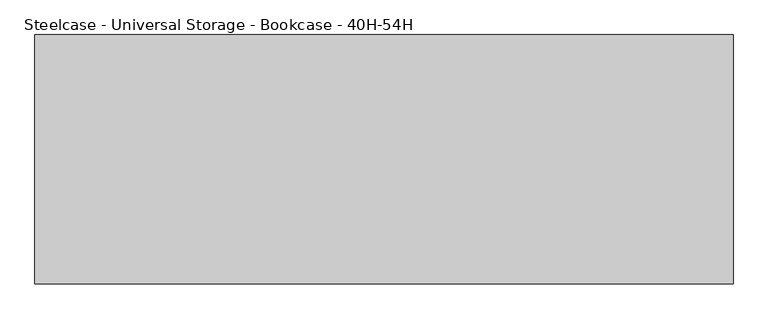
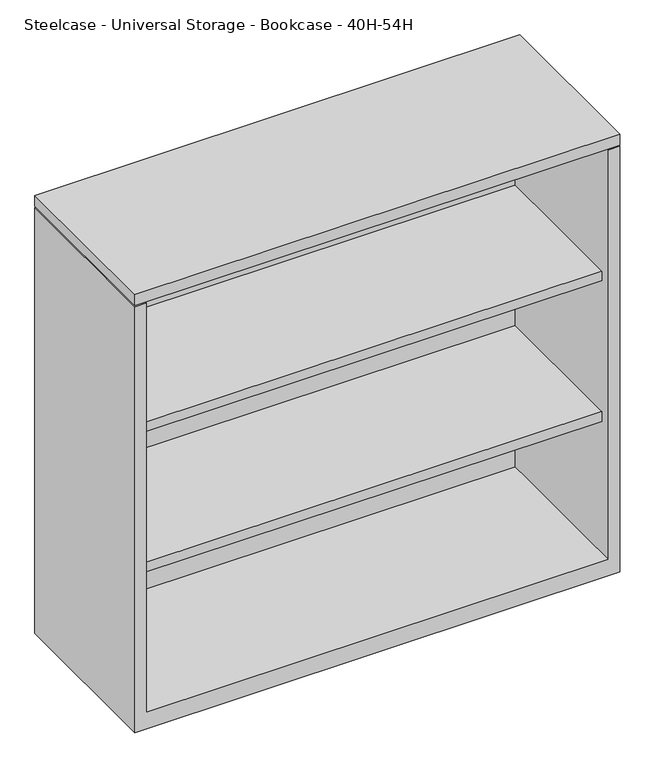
"""IFC4 building model written with IfcOpenShell, lengths in millimetres: furniture geometry, Steelcase - Universal Storage - Bookcase - 40H-54H : 40H x 42W."""

from ifc_helpers import new_model, si_unit, frame, origin, place, context, project, spatial, polyline, outline, extrude, faceted_brep, source, transform, mapped, element, save


def steelcase_universal_storage_bookcase_40h_54h_f368b369(model_context):
    return source(origin(), model_context, "Body", "SolidModel", [
        extrude(outline(polyline([(1066.8, -98.552), (1066.8, -479.552), (0.0, -479.552), (0.0, -98.552), (1066.8, -98.552)])), frame((0.0, 0.0, 993.6479031), z_axis=(0.0, 0.0, 1.0), x_axis=(1.0, 0.0, 0.0)), (0.0, 0.0, 1.0), 25.4000484),
        extrude(outline(polyline([(1041.4000242, -123.9520008), (1041.4000242, -454.0250121), (25.4000008, -454.0250121), (25.4000008, -123.9520008), (1041.4000242, -123.9520008)])), frame((0.0, 0.0, 344.424), z_axis=(0.0, 0.0, 1.0), x_axis=(1.0, 0.0, 0.0)), (0.0, 0.0, 1.0), 22.2249516),
        extrude(outline(polyline([(1041.4000242, -123.9520008), (1041.4000242, -454.0250121), (25.4000008, -454.0250121), (25.4000008, -123.9520008), (1041.4000242, -123.9520008)])), frame((0.0, 0.0, 671.4489516), z_axis=(0.0, 0.0, 1.0), x_axis=(1.0, 0.0, 0.0)), (0.0, 0.0, 1.0), 22.2249516),
        faceted_brep([(25.4000008, -479.552, 38.1), (1041.4000242, -479.552, 38.1), (1041.4000242, -123.9520008, 38.1), (25.4000008, -123.9520008, 38.1), (1066.8, -98.552, 0.0), (1066.8, -479.552, 0.0), (0.0, -479.552, 0.0), (0.0, -98.552, 0.0), (0.0, -98.552, 990.6), (1066.8, -98.552, 990.6), (0.0, -479.552, 990.6), (1066.8, -479.552, 990.6), (1041.4000242, -479.552, 990.6), (25.4000008, -479.552, 990.6), (1041.4000242, -123.9520008, 990.6), (25.4000008, -123.9520008, 990.6)], [[[0, 1, 2, 3]], [[4, 5, 6, 7]], [[4, 7, 8, 9]], [[8, 7, 6, 10]], [[10, 6, 5, 11, 12, 1, 0, 13]], [[11, 5, 4, 9]], [[14, 12, 11, 9, 8, 10, 13, 15]], [[12, 14, 2, 1]], [[15, 13, 0, 3]], [[14, 15, 3, 2]]]),
    ])


if __name__ == "__main__":
    model = new_model("IFC4")
    model_context = context("Model", 3, world=origin())
    ifc_project = project(units=[si_unit("LENGTHUNIT", "METRE", prefix="MILLI")], contexts=[model_context])
    site = spatial("IfcSite", under=ifc_project)
    building = spatial("IfcBuilding", under=site)
    placement = place(None, origin())
    steelcase_universal_storage_bookcase_40h_54h_shape = steelcase_universal_storage_bookcase_40h_54h_f368b369(model_context)
    element("IfcFurniture", 1, ObjectType="Steelcase - Universal Storage - Bookcase - 40H-54H : 40H x 42W", at=placement, inside=building, context=model_context, shape_type="MappedRepresentation", body=[
        mapped(steelcase_universal_storage_bookcase_40h_54h_shape, transform((0.0, 0.0, 0.0), x_axis=(1.0, 0.0, 0.0), y_axis=(0.0, 1.0, 0.0), z_axis=(0.0, 0.0, 1.0))),
    ])
    save(model, "model.ifc")
